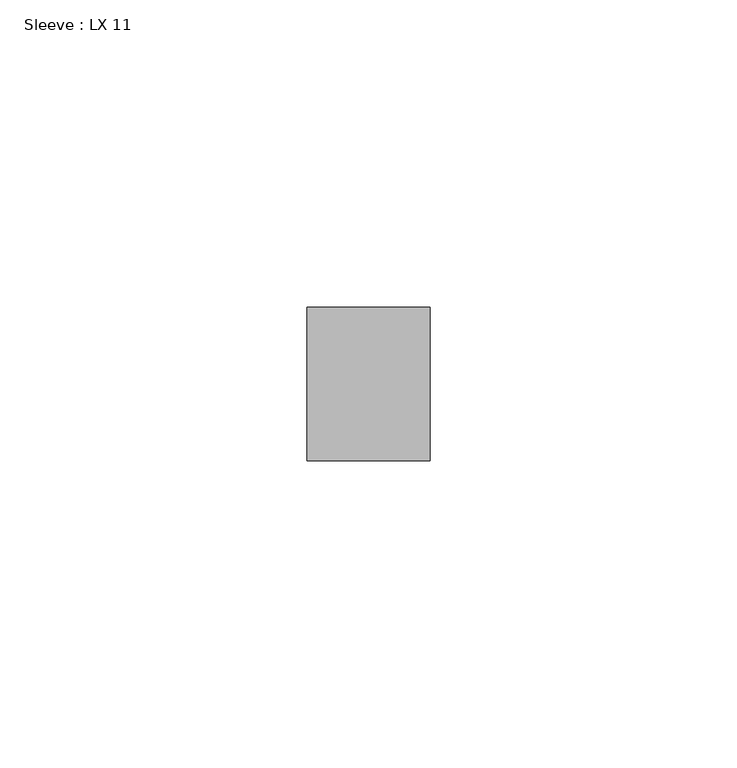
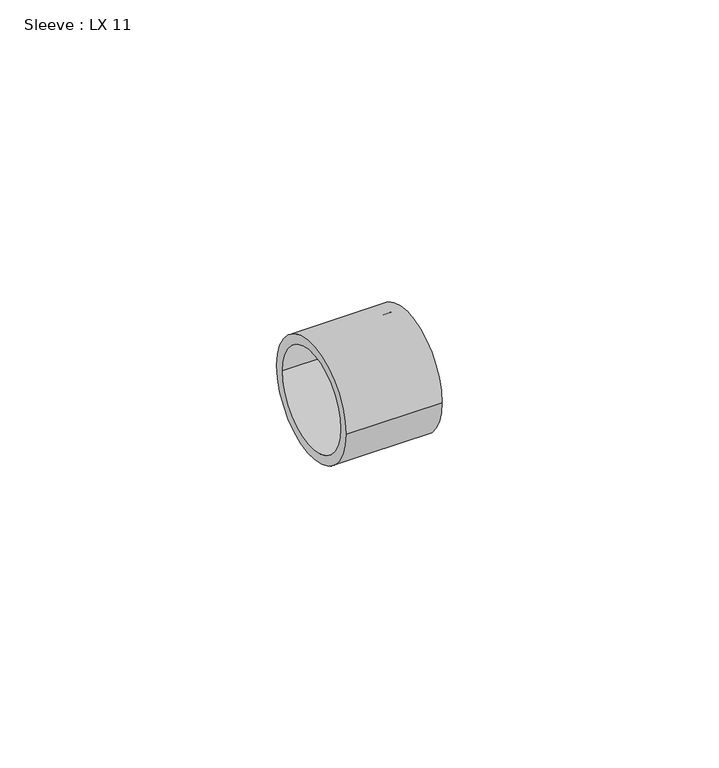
"""IFC4 building model written with IfcOpenShell, lengths in millimetres: pipe fitting geometry, Sleeve : LX 11."""

from ifc_helpers import new_model, si_unit, point, frame, origin, origin_2d, place, context, project, spatial, circle_curve, trimmed, segment, composite_curve, outline, extrude, source, transform, mapped, element, save


def sleeve_lx_11_864eb6fe(model_context):
    return source(origin(), model_context, "Body", "SweptSolid", [
        extrude(outline(composite_curve([segment(trimmed(circle_curve(origin_2d(), 12.5), [point((12.5, 0.0))], [point((-12.5, 0.0))], False, "CARTESIAN"), True, "CONTINUOUS"), segment(trimmed(circle_curve(origin_2d(), 12.5), [point((-12.5, 0.0))], [point((12.5, 0.0))], False, "CARTESIAN"), True, "CONTINUOUS")], self_intersect=False), holes=[composite_curve([segment(trimmed(circle_curve(origin_2d(), 10.5), [point((10.5, 0.0))], [point((-10.5, 0.0))], True, "CARTESIAN"), True, "CONTINUOUS"), segment(trimmed(circle_curve(origin_2d(), 10.5), [point((-10.5, 0.0))], [point((10.5, 0.0))], True, "CARTESIAN"), True, "CONTINUOUS")], self_intersect=False)]), frame((0.0, 0.0, 0.0), z_axis=(1.0, 0.0, 0.0), x_axis=(0.0, 1.0, 0.0)), (0.0, 0.0, 1.0), 20.0),
    ])


if __name__ == "__main__":
    model = new_model("IFC4")
    model_context = context("Model", 3, world=origin())
    ifc_project = project(units=[si_unit("LENGTHUNIT", "METRE", prefix="MILLI")], contexts=[model_context])
    site = spatial("IfcSite", under=ifc_project)
    building = spatial("IfcBuilding", under=site)
    placement = place(None, origin())
    sleeve_lx_11_shape = sleeve_lx_11_864eb6fe(model_context)
    element("IfcPipeFitting", 1, ObjectType="Sleeve : LX 11", at=placement, inside=building, context=model_context, shape_type="MappedRepresentation", body=[
        mapped(sleeve_lx_11_shape, transform((0.0, 0.0, 0.0), x_axis=(1.0, 0.0, 0.0), y_axis=(0.0, 1.0, 0.0), z_axis=(0.0, 0.0, 1.0))),
    ])
    save(model, "model.ifc")
